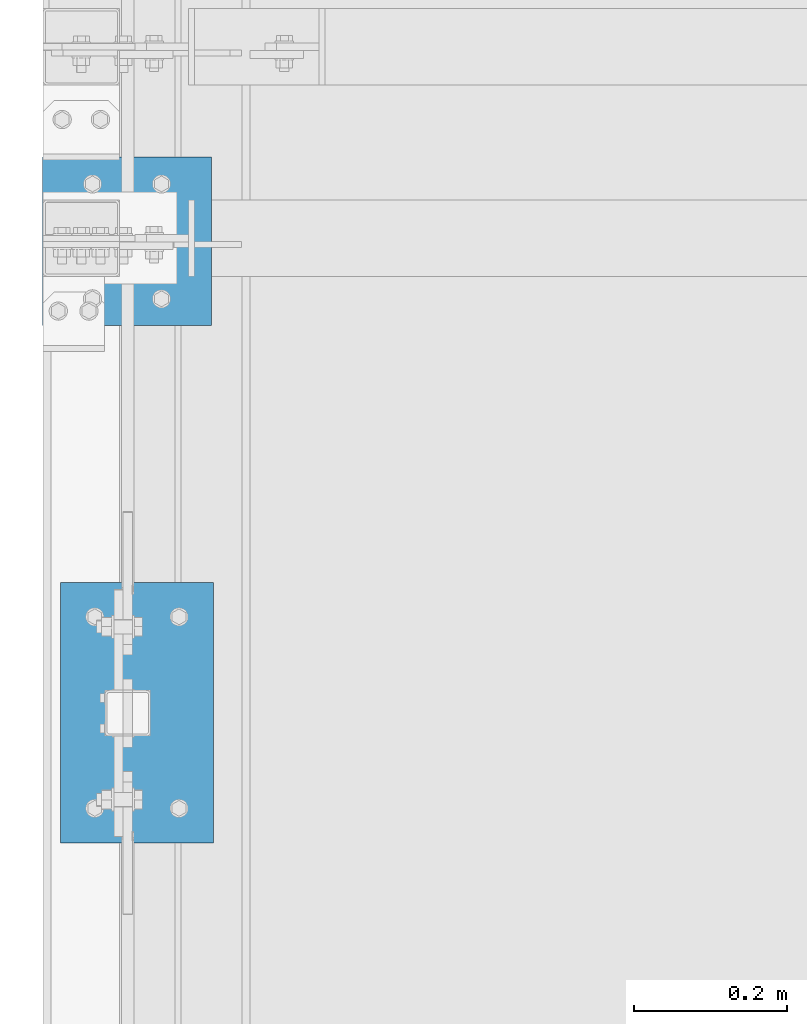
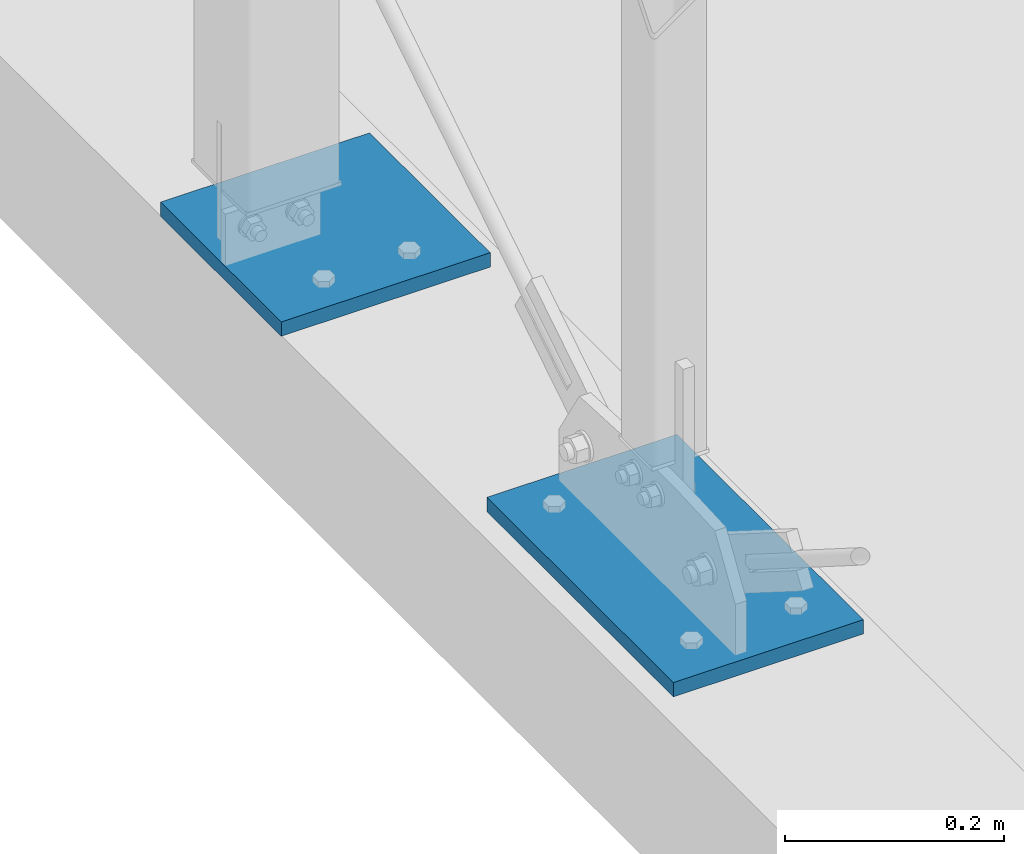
# One storey, part 63 of 271: 2 beams, 2 elements without a shape of their own.
"""IFC2X3 building model written with IfcOpenShell, lengths in millimetres."""

from ifc_helpers import new_model, si_unit, frame, origin_with_axes, origin_2d_with_axis, place, context, subcontext, project, spatial, rectangle, extrude, material, type_object, element, aggregate, save


model = new_model("IFC2X3")

# Units and contexts
model_context = context("Model", 3, precision=1e-05, world=origin_with_axes())
body_context = subcontext(model_context, "Body", "Model", "MODEL_VIEW")
ifc_project = project(units=[si_unit("LENGTHUNIT", "METRE", prefix="MILLI"), si_unit("AREAUNIT", "SQUARE_METRE"), si_unit("VOLUMEUNIT", "CUBIC_METRE"), si_unit("MASSUNIT", "GRAM", prefix="KILO"), si_unit("TIMEUNIT", "SECOND"), si_unit("PLANEANGLEUNIT", "RADIAN"), si_unit("SOLIDANGLEUNIT", "STERADIAN"), si_unit("THERMODYNAMICTEMPERATUREUNIT", "DEGREE_CELSIUS"), si_unit("LUMINOUSINTENSITYUNIT", "LUMEN")], contexts=[model_context])

# Site, building, storey
site_placement = place(None, origin_with_axes())
site = spatial("IfcSite", under=ifc_project, at=site_placement, Name="Undefined", CompositionType="ELEMENT")
building_placement = place(site_placement, origin_with_axes())
building = spatial("IfcBuilding", under=site, at=building_placement, Name="Undefined", CompositionType="ELEMENT")
storey_placement = place(building_placement, origin_with_axes())
storey = spatial("IfcBuildingStorey", under=building, at=storey_placement, Name="Undefined", CompositionType="ELEMENT", Elevation=0.0)

# Assembly, beam
assembly_1_placement = place(storey_placement, origin_with_axes())
assembly_1 = element("IfcElementAssembly", 1, at=assembly_1_placement, inside=storey, Name="BELKA", AssemblyPlace="NOTDEFINED", PredefinedType="RIGID_FRAME")
ifc_material = material(Name="STEEL/S355JR")
beam_type_1 = type_object("IfcBeamType", Name="PL220*16", PredefinedType="NOTDEFINED")
beam_1_placement = place(assembly_1_placement, frame((-12.0, 2795.0, -8.0), z_axis=(0.0, -1.0, 0.0), x_axis=(1.0, 0.0, 0.0)))
beam_1 = element("IfcBeam", 2, at=beam_1_placement, type_object=beam_type_1, material=ifc_material, Name="BELKA", ObjectType="PL220*16", context=body_context, shape_type="SweptSolid", body=[
    extrude(rectangle(XDim=16.0, YDim=220.0, at=origin_2d_with_axis()), frame((220.0, 0.0, 0.0), z_axis=(-1.0, 0.0, 1.38777878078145e-17), x_axis=(0.0, -1.0, 0.0)), (0.0, 0.0, 1.0), 220.0),
])
aggregate(assembly_1, [beam_1])

assembly_2_placement = place(storey_placement, origin_with_axes())
assembly_2 = element("IfcElementAssembly", 3, at=assembly_2_placement, inside=storey, Name="BELKA", AssemblyPlace="NOTDEFINED", PredefinedType="RIGID_FRAME")
beam_type_2 = type_object("IfcBeamType", Name="PL340*16", PredefinedType="NOTDEFINED")
beam_2_placement = place(assembly_2_placement, frame((11.0, 2180.0, -8.0), z_axis=(0.0, -1.0, 0.0), x_axis=(1.0, 0.0, 0.0)))
beam_2 = element("IfcBeam", 4, at=beam_2_placement, type_object=beam_type_2, material=ifc_material, Name="BELKA", ObjectType="PL340*16", context=body_context, shape_type="SweptSolid", body=[
    extrude(rectangle(XDim=16.0, YDim=340.0, at=origin_2d_with_axis()), frame((200.0, 0.0, 0.0), z_axis=(-1.0, 0.0, 1.38777878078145e-17), x_axis=(0.0, -1.0, 0.0)), (0.0, 0.0, 1.0), 200.0),
])
aggregate(assembly_2, [beam_2])

save(model, "model.ifc")
